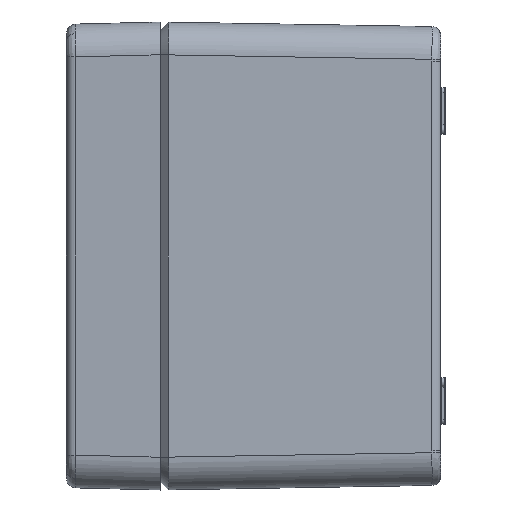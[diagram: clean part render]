
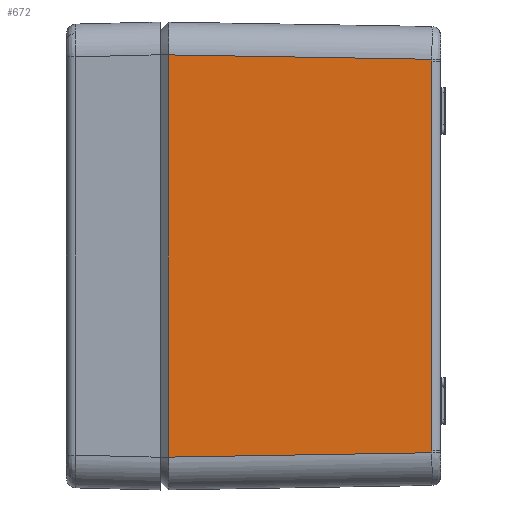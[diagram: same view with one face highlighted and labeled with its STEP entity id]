
A CAD part, left-side view. The second image highlights one B-rep face of the part: STEP entity #672.
In plain terms, the highlighted planar face has unit normal (-1, -0.017, 0).
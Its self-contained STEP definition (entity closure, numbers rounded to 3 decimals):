
#265 = DIRECTION ( 'NONE',  ( 0., 0., 1. ) ) ;
#299 = CARTESIAN_POINT ( 'NONE',  ( -99.033, -58.034, -41.909 ) ) ;
#598 = VECTOR ( 'NONE', #29287, 1000. ) ;
#672 = ADVANCED_FACE ( 'NONE', ( #20995 ), #3207, .T. ) ;
#786 = VERTEX_POINT ( 'NONE', #12526 ) ;
#1473 = CARTESIAN_POINT ( 'NONE',  ( -99.033, -58.036, 42.034 ) ) ;
#3207 = PLANE ( 'NONE',  #29211 ) ;
#3467 = ORIENTED_EDGE ( 'NONE', *, *, #35795, .T. ) ;
#4297 = CARTESIAN_POINT ( 'NONE',  ( -99.033, -58.033, -41.659 ) ) ;
#4632 = CARTESIAN_POINT ( 'NONE',  ( -99.974, -1.549, 42.975 ) ) ;
#4725 = VERTEX_POINT ( 'NONE', #4297 ) ;
#6426 = CARTESIAN_POINT ( 'NONE',  ( -99.033, -58.033, -41.784 ) ) ;
#7240 = CARTESIAN_POINT ( 'NONE',  ( -99.033, -58.034, 41.909 ) ) ;
#7808 = ORIENTED_EDGE ( 'NONE', *, *, #10966, .T. ) ;
#8294 = CARTESIAN_POINT ( 'NONE',  ( -99.033, -58.033, 41.659 ) ) ;
#9287 = VERTEX_POINT ( 'NONE', #31537 ) ;
#9348 = DIRECTION ( 'NONE',  ( 0.017, -1., 0.017 ) ) ;
#10837 = EDGE_CURVE ( 'NONE', #23896, #9287, #20245, .T. ) ;
#10966 = EDGE_CURVE ( 'NONE', #22968, #786, #16336, .T. ) ;
#12006 = CARTESIAN_POINT ( 'NONE',  ( -99.033, -58.033, -41.659 ) ) ;
#12526 = CARTESIAN_POINT ( 'NONE',  ( -99.033, -58.036, 42.034 ) ) ;
#13125 = ORIENTED_EDGE ( 'NONE', *, *, #33754, .T. ) ;
#15259 = CARTESIAN_POINT ( 'NONE',  ( -100.002, 0.117, -43.003 ) ) ;
#15579 = VECTOR ( 'NONE', #34661, 1000. ) ;
#15837 = CARTESIAN_POINT ( 'NONE',  ( -99.033, -58.033, 41.659 ) ) ;
#16336 = B_SPLINE_CURVE_WITH_KNOTS ( 'NONE', 3,
 ( #15837, #20812, #7240, #1473 ),
 .UNSPECIFIED., .F., .F.,
 ( 4, 4 ),
 ( 0., 0. ),
 .UNSPECIFIED. ) ;
#16367 = VECTOR ( 'NONE', #9348, 1000. ) ;
#16840 = CARTESIAN_POINT ( 'NONE',  ( -99.033, -58.036, -42.034 ) ) ;
#16989 = DIRECTION ( 'NONE',  ( -1., -0.017, 0. ) ) ;
#17107 = CARTESIAN_POINT ( 'NONE',  ( -100., 0., -50. ) ) ;
#18661 = EDGE_CURVE ( 'NONE', #786, #19268, #22636, .T. ) ;
#19268 = VERTEX_POINT ( 'NONE', #20826 ) ;
#20245 = LINE ( 'NONE', #15259, #16367 ) ;
#20325 = LINE ( 'NONE', #23334, #15579 ) ;
#20577 = EDGE_LOOP ( 'NONE', ( #33654, #13125, #28204, #7808, #23717, #3467 ) ) ;
#20812 = CARTESIAN_POINT ( 'NONE',  ( -99.033, -58.033, 41.784 ) ) ;
#20826 = CARTESIAN_POINT ( 'NONE',  ( -99.97, -1.8, 42.971 ) ) ;
#20995 = FACE_OUTER_BOUND ( 'NONE', #20577, .T. ) ;
#22544 = DIRECTION ( 'NONE',  ( -0.017, 1., 0. ) ) ;
#22636 = LINE ( 'NONE', #4632, #598 ) ;
#22968 = VERTEX_POINT ( 'NONE', #8294 ) ;
#23334 = CARTESIAN_POINT ( 'NONE',  ( -99.97, -1.8, -50. ) ) ;
#23717 = ORIENTED_EDGE ( 'NONE', *, *, #18661, .T. ) ;
#23896 = VERTEX_POINT ( 'NONE', #32805 ) ;
#26522 = EDGE_CURVE ( 'NONE', #4725, #22968, #29698, .T. ) ;
#27440 = CARTESIAN_POINT ( 'NONE',  ( -99.033, -58.033, 42.001 ) ) ;
#28204 = ORIENTED_EDGE ( 'NONE', *, *, #26522, .T. ) ;
#29211 = AXIS2_PLACEMENT_3D ( 'NONE', #17107, #16989, #22544 ) ;
#29287 = DIRECTION ( 'NONE',  ( -0.017, 1., 0.017 ) ) ;
#29698 = LINE ( 'NONE', #27440, #30117 ) ;
#30117 = VECTOR ( 'NONE', #265, 1000. ) ;
#31537 = CARTESIAN_POINT ( 'NONE',  ( -99.033, -58.036, -42.034 ) ) ;
#32094 = B_SPLINE_CURVE_WITH_KNOTS ( 'NONE', 3,
 ( #16840, #299, #6426, #12006 ),
 .UNSPECIFIED., .F., .F.,
 ( 4, 4 ),
 ( 0., 0. ),
 .UNSPECIFIED. ) ;
#32805 = CARTESIAN_POINT ( 'NONE',  ( -99.97, -1.8, -42.971 ) ) ;
#33654 = ORIENTED_EDGE ( 'NONE', *, *, #10837, .T. ) ;
#33754 = EDGE_CURVE ( 'NONE', #9287, #4725, #32094, .T. ) ;
#34661 = DIRECTION ( 'NONE',  ( 0., 0., -1. ) ) ;
#35795 = EDGE_CURVE ( 'NONE', #19268, #23896, #20325, .T. ) ;
